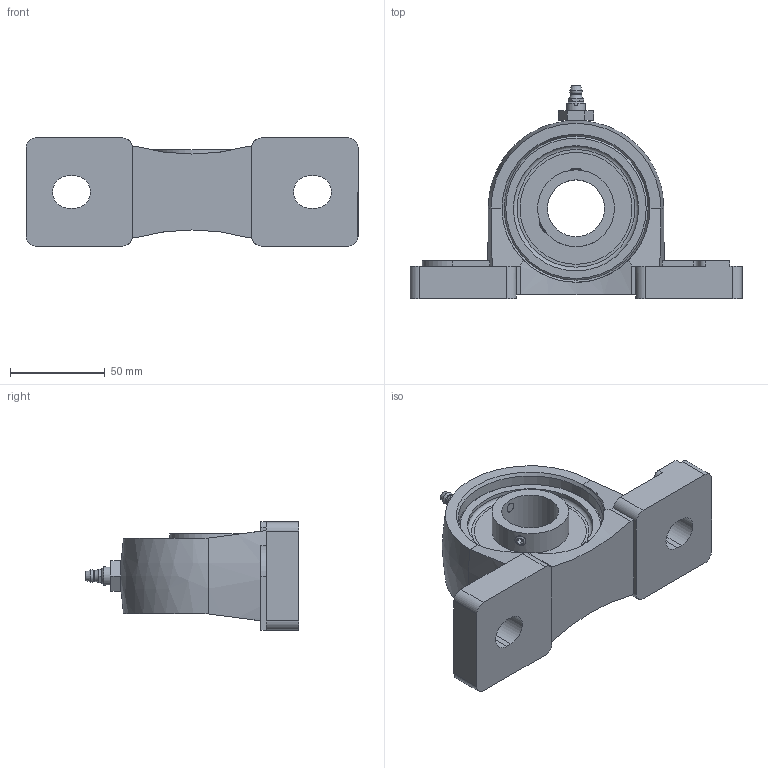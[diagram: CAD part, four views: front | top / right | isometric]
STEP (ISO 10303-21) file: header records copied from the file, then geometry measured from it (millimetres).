
FILE_DESCRIPTION((''),'2;1');
FILE_NAME('\\Ts-tgl068\J-Cad-D-BASE\00.3DCADデータ作成フォルダ\01.ピロー形\UCEP200\UCEP206.stp','2014-04-18T09:40:33',('btec_1106_2'),(''),'Autodesk Inventor 2012','Autodesk Inventor 2012','');
FILE_SCHEMA(('AUTOMOTIVE_DESIGN { 1 0 10303 214 1 1 1 1 }'));
Length unit declared in the file: millimetre
Products named in the file (7): UCEP200; EP206; AU110-1; EC206; GU1; シリーズUC [番手=206 ul]; M10X1
Assembly tree (6 placements, depth 2):
  UCEP200
    EP206
    AU110-1
    EC206
    GU1
    シリーズUC [番手=206 ul]
    M10X1
Bounding box: 175 x 112.49 x 57 mm (x, y, z)
Volume: 304727.7 mm3; surface area: 75375.7 mm2
Topology: 6 solids, 6 shells, 177 faces, 437 edges, 280 vertices
Faces by surface type: plane 95, cylinder 48, cone 21, torus 8, sphere 4, bspline 1
Full cylindrical faces by diameter (mm): 2 x1, 5 x1, 5.359 x1, 6 x2, 6.35 x1, 8.376 x2, 10 x1, 30 x1, 40.5 x2, 66 x2, 76 x2
Entity records: 5477 total; most frequent: CARTESIAN_POINT 1222, DIRECTION 860, ORIENTED_EDGE 772, EDGE_CURVE 386, AXIS2_PLACEMENT_3D 331, VERTEX_POINT 266, EDGE_LOOP 238, VECTOR 198
